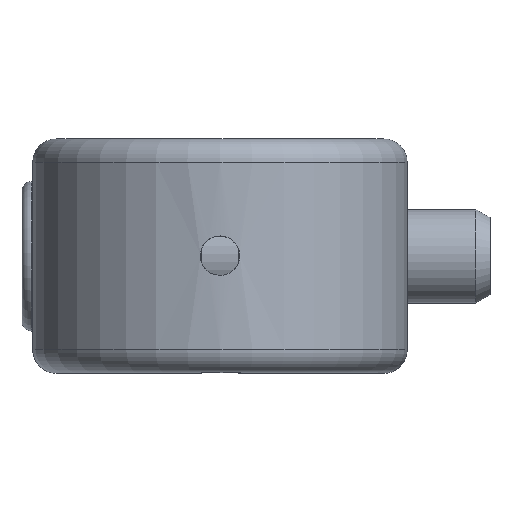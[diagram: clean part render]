
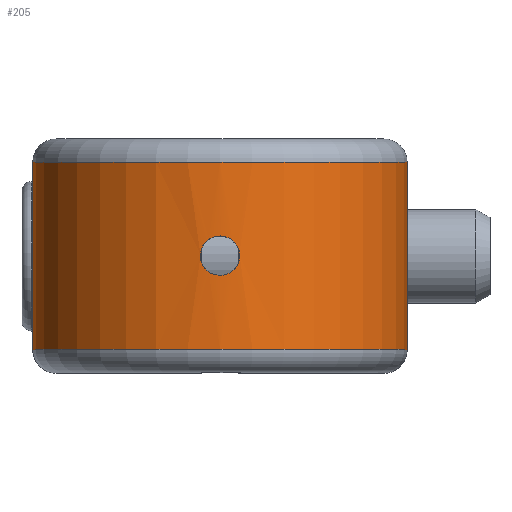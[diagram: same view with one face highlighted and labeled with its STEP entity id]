
A CAD part, top view. The second image highlights one B-rep face of the part: STEP entity #205.
In plain terms, the highlighted cylindrical face has radius 20 mm (diameter 40 mm), a partial arc.
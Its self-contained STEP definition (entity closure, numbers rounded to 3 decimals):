
#205=ADVANCED_FACE('',(#393,#394),#395,.T.);
#393=FACE_OUTER_BOUND('',#575,.T.);
#394=FACE_BOUND('',#576,.T.);
#395=CYLINDRICAL_SURFACE('',#577,20.0);
#575=EDGE_LOOP('',(#867,#868,#869,#870));
#576=EDGE_LOOP('',(#871));
#577=AXIS2_PLACEMENT_3D('',#872,#873,#874);
#867=ORIENTED_EDGE('',*,*,#1121,.F.);
#868=ORIENTED_EDGE('',*,*,#1125,.T.);
#869=ORIENTED_EDGE('',*,*,#1109,.T.);
#870=ORIENTED_EDGE('',*,*,#1126,.T.);
#871=ORIENTED_EDGE('',*,*,#1068,.T.);
#872=CARTESIAN_POINT('',(0.0,-12.5,0.0));
#873=DIRECTION('',(0.0,1.0,0.0));
#874=DIRECTION('',(0.0,0.0,1.0));
#1068=EDGE_CURVE('',#1234,#1234,#1235,.T.);
#1109=EDGE_CURVE('',#1306,#1307,#1308,.T.);
#1121=EDGE_CURVE('',#1326,#1328,#1329,.T.);
#1125=EDGE_CURVE('',#1326,#1306,#1334,.T.);
#1126=EDGE_CURVE('',#1307,#1328,#1335,.F.);
#1234=VERTEX_POINT('',#1464);
#1235=B_SPLINE_CURVE_WITH_KNOTS('',3,(#1465,#1466,#1467,#1468,#1469,#1470,#1471,#1472,#1473,#1474,#1475,#1476,#1477,#1478,#1479,#1480,#1481,#1482,#1483,#1484,#1485,#1486,#1487,#1488,#1489,#1490,#1491,#1492,#1493,#1494,#1495,#1496,#1497,#1498,#1499,#1500,#1501,#1502,#1503,#1504,#1505,#1506,#1507,#1508,#1509,#1510,#1511,#1512,#1513,#1514,#1515,#1516,#1517,#1518),.UNSPECIFIED.,.T.,.F.,(2,2,2,2,2,2,2,2,2,2,2,2,2,2,2,2,2,2,2,2,2,2,2,2,2,2,2,2,2),(-0.001,0.0,0.,0.001,0.001,0.002,0.002,0.003,0.004,0.004,0.005,0.005,0.005,0.006,0.006,0.007,0.007,0.008,0.009,0.009,0.009,0.01,0.01,0.011,0.011,0.011,0.012,0.013,0.014),.UNSPECIFIED.);
#1306=VERTEX_POINT('',#1666);
#1307=VERTEX_POINT('',#1667);
#1308=LINE('',#1668,#1669);
#1326=VERTEX_POINT('',#1693);
#1328=VERTEX_POINT('',#1696);
#1329=LINE('',#1697,#1698);
#1334=CIRCLE('',#1705,20.0);
#1335=CIRCLE('',#1706,20.0);
#1464=CARTESIAN_POINT('',(2.1,0.,19.889));
#1465=CARTESIAN_POINT('',(2.1,0.278,19.889));
#1466=CARTESIAN_POINT('',(2.1,-0.139,19.889));
#1467=CARTESIAN_POINT('',(2.086,-0.275,19.891));
#1468=CARTESIAN_POINT('',(2.033,-0.544,19.896));
#1469=CARTESIAN_POINT('',(1.993,-0.677,19.901));
#1470=CARTESIAN_POINT('',(1.887,-0.932,19.911));
#1471=CARTESIAN_POINT('',(1.823,-1.052,19.917));
#1472=CARTESIAN_POINT('',(1.67,-1.28,19.93));
#1473=CARTESIAN_POINT('',(1.582,-1.388,19.938));
#1474=CARTESIAN_POINT('',(1.291,-1.679,19.959));
#1475=CARTESIAN_POINT('',(1.057,-1.835,19.974));
#1476=CARTESIAN_POINT('',(0.552,-2.045,19.994));
#1477=CARTESIAN_POINT('',(0.275,-2.1,20.));
#1478=CARTESIAN_POINT('',(-0.136,-2.1,20.));
#1479=CARTESIAN_POINT('',(-0.275,-2.086,19.999));
#1480=CARTESIAN_POINT('',(-0.545,-2.033,19.993));
#1481=CARTESIAN_POINT('',(-0.675,-1.993,19.989));
#1482=CARTESIAN_POINT('',(-0.93,-1.888,19.979));
#1483=CARTESIAN_POINT('',(-1.053,-1.822,19.973));
#1484=CARTESIAN_POINT('',(-1.28,-1.67,19.959));
#1485=CARTESIAN_POINT('',(-1.386,-1.584,19.952));
#1486=CARTESIAN_POINT('',(-1.582,-1.388,19.938));
#1487=CARTESIAN_POINT('',(-1.669,-1.282,19.93));
#1488=CARTESIAN_POINT('',(-1.821,-1.054,19.917));
#1489=CARTESIAN_POINT('',(-1.887,-0.932,19.911));
#1490=CARTESIAN_POINT('',(-1.993,-0.677,19.901));
#1491=CARTESIAN_POINT('',(-2.032,-0.546,19.896));
#1492=CARTESIAN_POINT('',(-2.086,-0.277,19.891));
#1493=CARTESIAN_POINT('',(-2.1,-0.138,19.889));
#1494=CARTESIAN_POINT('',(-2.1,0.273,19.889));
#1495=CARTESIAN_POINT('',(-2.045,0.55,19.895));
#1496=CARTESIAN_POINT('',(-1.836,1.055,19.916));
#1497=CARTESIAN_POINT('',(-1.68,1.29,19.93));
#1498=CARTESIAN_POINT('',(-1.39,1.58,19.952));
#1499=CARTESIAN_POINT('',(-1.282,1.669,19.959));
#1500=CARTESIAN_POINT('',(-1.054,1.822,19.973));
#1501=CARTESIAN_POINT('',(-0.933,1.886,19.979));
#1502=CARTESIAN_POINT('',(-0.679,1.992,19.989));
#1503=CARTESIAN_POINT('',(-0.546,2.032,19.993));
#1504=CARTESIAN_POINT('',(-0.277,2.086,19.999));
#1505=CARTESIAN_POINT('',(-0.141,2.1,20.));
#1506=CARTESIAN_POINT('',(0.137,2.1,20.));
#1507=CARTESIAN_POINT('',(0.273,2.087,19.999));
#1508=CARTESIAN_POINT('',(0.542,2.033,19.993));
#1509=CARTESIAN_POINT('',(0.675,1.993,19.989));
#1510=CARTESIAN_POINT('',(0.93,1.888,19.979));
#1511=CARTESIAN_POINT('',(1.051,1.824,19.973));
#1512=CARTESIAN_POINT('',(1.279,1.671,19.959));
#1513=CARTESIAN_POINT('',(1.387,1.583,19.952));
#1514=CARTESIAN_POINT('',(1.678,1.293,19.93));
#1515=CARTESIAN_POINT('',(1.834,1.059,19.916));
#1516=CARTESIAN_POINT('',(2.044,0.554,19.896));
#1517=CARTESIAN_POINT('',(2.1,0.278,19.889));
#1518=CARTESIAN_POINT('',(2.1,-0.139,19.889));
#1666=CARTESIAN_POINT('',(20.0,-10.0,0.));
#1667=CARTESIAN_POINT('',(20.0,10.0,0.));
#1668=CARTESIAN_POINT('',(20.0,-12.5,0.));
#1669=VECTOR('',#1862,1.0);
#1693=CARTESIAN_POINT('',(-20.0,-10.0,0.0));
#1696=CARTESIAN_POINT('',(-20.0,10.0,0.0));
#1697=CARTESIAN_POINT('',(-20.0,-12.5,0.0));
#1698=VECTOR('',#1876,1.0);
#1705=AXIS2_PLACEMENT_3D('',#1879,#1880,#1881);
#1706=AXIS2_PLACEMENT_3D('',#1882,#1883,#1884);
#1862=DIRECTION('',(0.0,1.0,0.0));
#1876=DIRECTION('',(0.0,1.0,0.0));
#1879=CARTESIAN_POINT('',(0.0,-10.0,0.0));
#1880=DIRECTION('',(0.0,1.0,0.0));
#1881=DIRECTION('',(0.0,0.0,1.0));
#1882=CARTESIAN_POINT('',(0.0,10.0,0.0));
#1883=DIRECTION('',(0.0,1.0,0.0));
#1884=DIRECTION('',(0.0,0.0,1.0));
